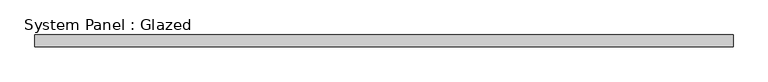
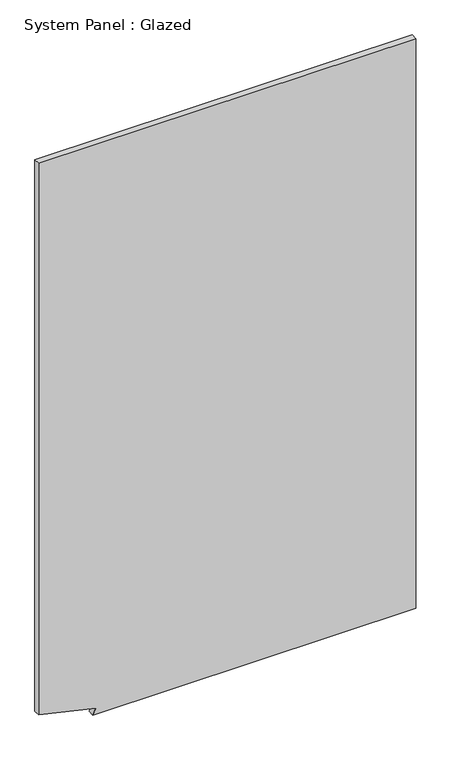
"""IFC4 building model written with IfcOpenShell, lengths in millimetres: plate geometry, System Panel : Glazed."""

from ifc_helpers import new_model, si_unit, frame, origin, place, context, project, spatial, polyline, outline, extrude, source, transform, mapped, element, save


def system_panel_glazed_2f73e7c0(model_context):
    return source(origin(), model_context, "Body", "SweptSolid", [
        extrude(outline(polyline([(0.0, -524.7167547), (0.0, 735.8695652), (2350.0, 735.8695652), (2350.0, -735.8695652), (75.967446, -735.8695652), (23.6748048, -513.2815731), (0.0, -524.7167547)])), frame((0.0, 24.5, 0.0), z_axis=(0.0, 1.0, 0.0), x_axis=(0.0, 0.0, 1.0)), (0.0, 0.0, 1.0), 25.0),
    ])


if __name__ == "__main__":
    model = new_model("IFC4")
    model_context = context("Model", 3, world=origin())
    ifc_project = project(units=[si_unit("LENGTHUNIT", "METRE", prefix="MILLI")], contexts=[model_context])
    site = spatial("IfcSite", under=ifc_project)
    building = spatial("IfcBuilding", under=site)
    placement = place(None, origin())
    system_panel_glazed_shape = system_panel_glazed_2f73e7c0(model_context)
    element("IfcPlate", 1, ObjectType="System Panel : Glazed", at=placement, inside=building, context=model_context, shape_type="MappedRepresentation", body=[
        mapped(system_panel_glazed_shape, transform((0.0, 0.0, 0.0), x_axis=(1.0, 0.0, 0.0), y_axis=(0.0, 1.0, 0.0), z_axis=(0.0, 0.0, 1.0))),
    ])
    save(model, "model.ifc")
